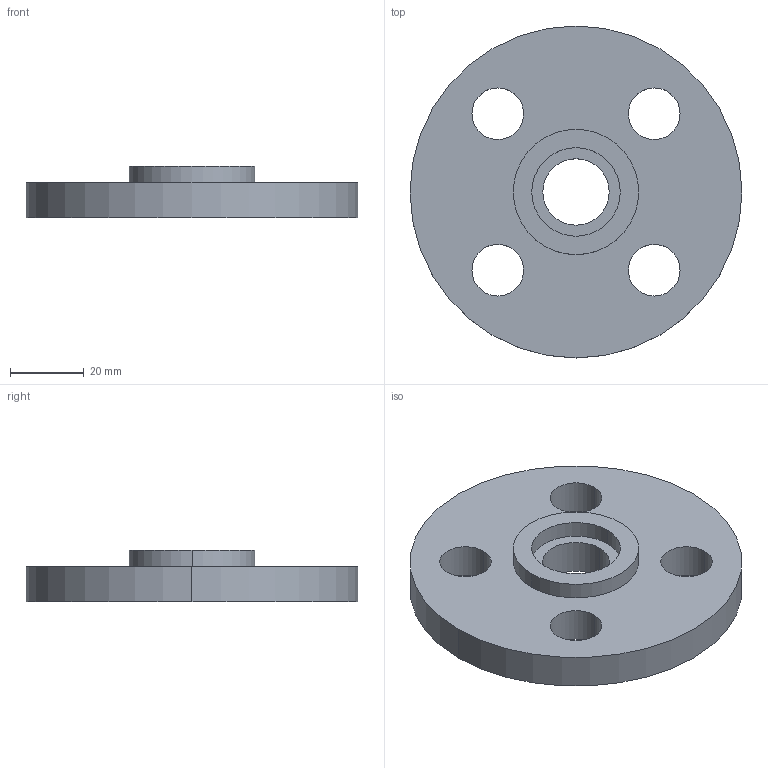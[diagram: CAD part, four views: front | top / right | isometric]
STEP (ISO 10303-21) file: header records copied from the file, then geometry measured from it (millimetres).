
FILE_DESCRIPTION (( 'STEP AP214' ), '1' );
FILE_NAME ('PN40 DN10 Type 01 - Type C Face.STEP', '2018-12-29T05:27:09', ( '' ), ( '' ), 'SwSTEP 2.0', 'SolidWorks 2019', '' );
FILE_SCHEMA (( 'AUTOMOTIVE_DESIGN' ));
Length unit declared in the file: millimetre
Products named in the file (1): PN40 DN10 Type 01 - Type C Face
Bounding box: 90 x 90 x 14 mm (x, y, z)
Volume: 54219.2 mm3; surface area: 16697.6 mm2
Topology: 1 solids, 1 shells, 20 faces, 48 edges, 32 vertices
Faces by surface type: cylinder 16, plane 4
Entity records: 658 total; most frequent: DIRECTION 122, CARTESIAN_POINT 101, ORIENTED_EDGE 96, AXIS2_PLACEMENT_3D 53, EDGE_CURVE 48, EDGE_LOOP 32, VERTEX_POINT 32, CIRCLE 32
